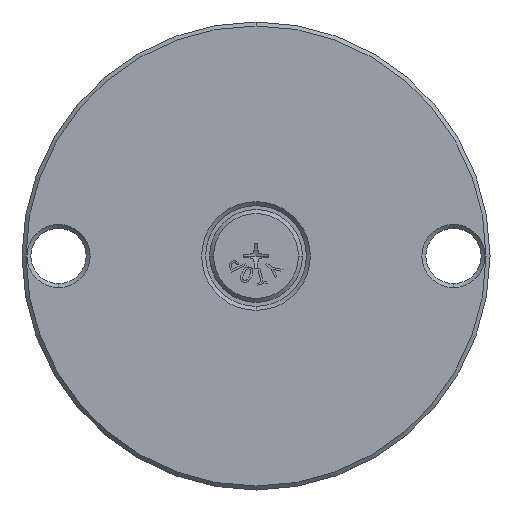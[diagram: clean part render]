
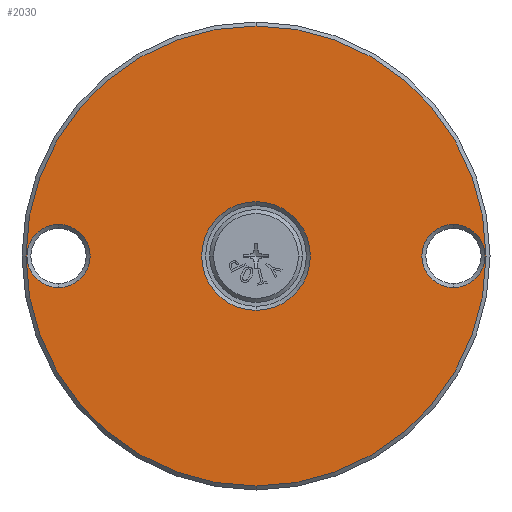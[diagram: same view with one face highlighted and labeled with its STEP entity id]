
A CAD part, front view. The second image highlights one B-rep face of the part: STEP entity #2030.
In plain terms, the highlighted planar face has unit normal (0, -1, 0).
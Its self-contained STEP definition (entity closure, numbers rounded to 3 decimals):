
#102 = FACE_OUTER_BOUND ( 'NONE', #7666, .T. ) ;
#227 = EDGE_CURVE ( 'NONE', #2434, #7378, #656, .T. ) ;
#438 = EDGE_LOOP ( 'NONE', ( #3690, #6216 ) ) ;
#479 = CIRCLE ( 'NONE', #6122, 13.75 ) ;
#627 = AXIS2_PLACEMENT_3D ( 'NONE', #4479, #1828, #4652 ) ;
#656 = CIRCLE ( 'NONE', #1825, 58.25 ) ;
#702 = CARTESIAN_POINT ( 'NONE',  ( 0., 0., 0. ) ) ;
#853 = ORIENTED_EDGE ( 'NONE', *, *, #7315, .T. ) ;
#973 = EDGE_LOOP ( 'NONE', ( #4233, #5817 ) ) ;
#1510 = VERTEX_POINT ( 'NONE', #7106 ) ;
#1608 = VERTEX_POINT ( 'NONE', #6412 ) ;
#1617 = EDGE_CURVE ( 'NONE', #7378, #2434, #7645, .T. ) ;
#1652 = EDGE_CURVE ( 'NONE', #1510, #1608, #4288, .T. ) ;
#1680 = DIRECTION ( 'NONE',  ( 0., 1., 0. ) ) ;
#1813 = VERTEX_POINT ( 'NONE', #2708 ) ;
#1825 = AXIS2_PLACEMENT_3D ( 'NONE', #5928, #3274, #3940 ) ;
#1828 = DIRECTION ( 'NONE',  ( 0., 1., 0. ) ) ;
#1870 = CARTESIAN_POINT ( 'NONE',  ( -50., 0., 0. ) ) ;
#1904 = DIRECTION ( 'NONE',  ( 0., 1., 0. ) ) ;
#1967 = CIRCLE ( 'NONE', #627, 13.75 ) ;
#2030 = ADVANCED_FACE ( 'NONE', ( #2108, #2933, #102, #7219 ), #5846, .F. ) ;
#2108 = FACE_BOUND ( 'NONE', #438, .T. ) ;
#2215 = AXIS2_PLACEMENT_3D ( 'NONE', #2751, #6222, #6745 ) ;
#2367 = CIRCLE ( 'NONE', #2215, 8. ) ;
#2407 = DIRECTION ( 'NONE',  ( 0., -1., 0. ) ) ;
#2426 = CARTESIAN_POINT ( 'NONE',  ( 0., 0., -58.25 ) ) ;
#2434 = VERTEX_POINT ( 'NONE', #2426 ) ;
#2454 = DIRECTION ( 'NONE',  ( 0., 0., 1. ) ) ;
#2467 = AXIS2_PLACEMENT_3D ( 'NONE', #2527, #2407, #3196 ) ;
#2527 = CARTESIAN_POINT ( 'NONE',  ( 0., 0., 0. ) ) ;
#2614 = DIRECTION ( 'NONE',  ( 0., 1., 0. ) ) ;
#2616 = DIRECTION ( 'NONE',  ( 0., 0., 1. ) ) ;
#2708 = CARTESIAN_POINT ( 'NONE',  ( 50., 0., -8. ) ) ;
#2751 = CARTESIAN_POINT ( 'NONE',  ( -50., 0., 0. ) ) ;
#2794 = AXIS2_PLACEMENT_3D ( 'NONE', #2914, #8235, #6965 ) ;
#2868 = VERTEX_POINT ( 'NONE', #7381 ) ;
#2914 = CARTESIAN_POINT ( 'NONE',  ( 50., 0., 0. ) ) ;
#2933 = FACE_BOUND ( 'NONE', #4899, .T. ) ;
#3179 = VERTEX_POINT ( 'NONE', #8550 ) ;
#3196 = DIRECTION ( 'NONE',  ( 0., 0., 1. ) ) ;
#3274 = DIRECTION ( 'NONE',  ( 0., -1., 0. ) ) ;
#3363 = DIRECTION ( 'NONE',  ( 0., 0., 1. ) ) ;
#3489 = AXIS2_PLACEMENT_3D ( 'NONE', #8452, #1680, #2454 ) ;
#3690 = ORIENTED_EDGE ( 'NONE', *, *, #8529, .T. ) ;
#3833 = CARTESIAN_POINT ( 'NONE',  ( 59.25, 0., 0. ) ) ;
#3940 = DIRECTION ( 'NONE',  ( 0., 0., 1. ) ) ;
#4233 = ORIENTED_EDGE ( 'NONE', *, *, #6707, .T. ) ;
#4252 = CARTESIAN_POINT ( 'NONE',  ( 0., 0., 13.75 ) ) ;
#4288 = CIRCLE ( 'NONE', #4863, 8. ) ;
#4353 = AXIS2_PLACEMENT_3D ( 'NONE', #3833, #6514, #4518 ) ;
#4479 = CARTESIAN_POINT ( 'NONE',  ( 0., 0., 0. ) ) ;
#4518 = DIRECTION ( 'NONE',  ( 0., 0., 1. ) ) ;
#4652 = DIRECTION ( 'NONE',  ( 0., 0., 1. ) ) ;
#4744 = CARTESIAN_POINT ( 'NONE',  ( 0., 0., 58.25 ) ) ;
#4863 = AXIS2_PLACEMENT_3D ( 'NONE', #1870, #1904, #2616 ) ;
#4899 = EDGE_LOOP ( 'NONE', ( #8314, #853 ) ) ;
#4929 = EDGE_CURVE ( 'NONE', #2868, #1813, #5733, .T. ) ;
#5152 = ORIENTED_EDGE ( 'NONE', *, *, #1617, .T. ) ;
#5433 = CIRCLE ( 'NONE', #2794, 8. ) ;
#5533 = EDGE_CURVE ( 'NONE', #7591, #3179, #1967, .T. ) ;
#5733 = CIRCLE ( 'NONE', #3489, 8. ) ;
#5817 = ORIENTED_EDGE ( 'NONE', *, *, #5533, .T. ) ;
#5846 = PLANE ( 'NONE',  #4353 ) ;
#5928 = CARTESIAN_POINT ( 'NONE',  ( 0., 0., 0. ) ) ;
#6122 = AXIS2_PLACEMENT_3D ( 'NONE', #702, #2614, #3363 ) ;
#6216 = ORIENTED_EDGE ( 'NONE', *, *, #4929, .T. ) ;
#6222 = DIRECTION ( 'NONE',  ( 0., 1., 0. ) ) ;
#6412 = CARTESIAN_POINT ( 'NONE',  ( -50., 0., 8. ) ) ;
#6514 = DIRECTION ( 'NONE',  ( 0., 1., 0. ) ) ;
#6707 = EDGE_CURVE ( 'NONE', #3179, #7591, #479, .T. ) ;
#6745 = DIRECTION ( 'NONE',  ( 0., 0., 1. ) ) ;
#6965 = DIRECTION ( 'NONE',  ( 0., 0., 1. ) ) ;
#7106 = CARTESIAN_POINT ( 'NONE',  ( -50., 0., -8. ) ) ;
#7219 = FACE_BOUND ( 'NONE', #973, .T. ) ;
#7315 = EDGE_CURVE ( 'NONE', #1608, #1510, #2367, .T. ) ;
#7378 = VERTEX_POINT ( 'NONE', #4744 ) ;
#7381 = CARTESIAN_POINT ( 'NONE',  ( 50., 0., 8. ) ) ;
#7591 = VERTEX_POINT ( 'NONE', #4252 ) ;
#7645 = CIRCLE ( 'NONE', #2467, 58.25 ) ;
#7666 = EDGE_LOOP ( 'NONE', ( #5152, #8148 ) ) ;
#8148 = ORIENTED_EDGE ( 'NONE', *, *, #227, .T. ) ;
#8235 = DIRECTION ( 'NONE',  ( 0., 1., 0. ) ) ;
#8314 = ORIENTED_EDGE ( 'NONE', *, *, #1652, .T. ) ;
#8452 = CARTESIAN_POINT ( 'NONE',  ( 50., 0., 0. ) ) ;
#8529 = EDGE_CURVE ( 'NONE', #1813, #2868, #5433, .T. ) ;
#8550 = CARTESIAN_POINT ( 'NONE',  ( 0., 0., -13.75 ) ) ;
